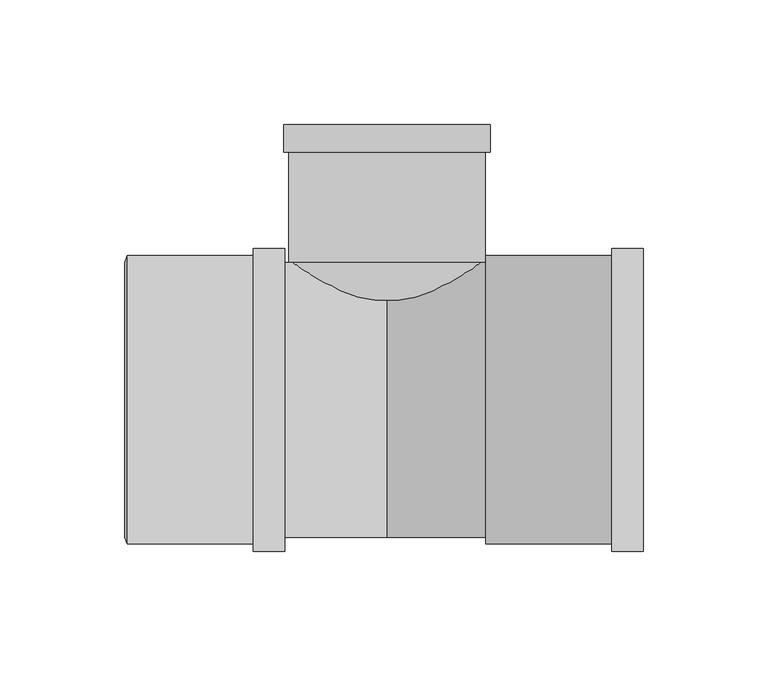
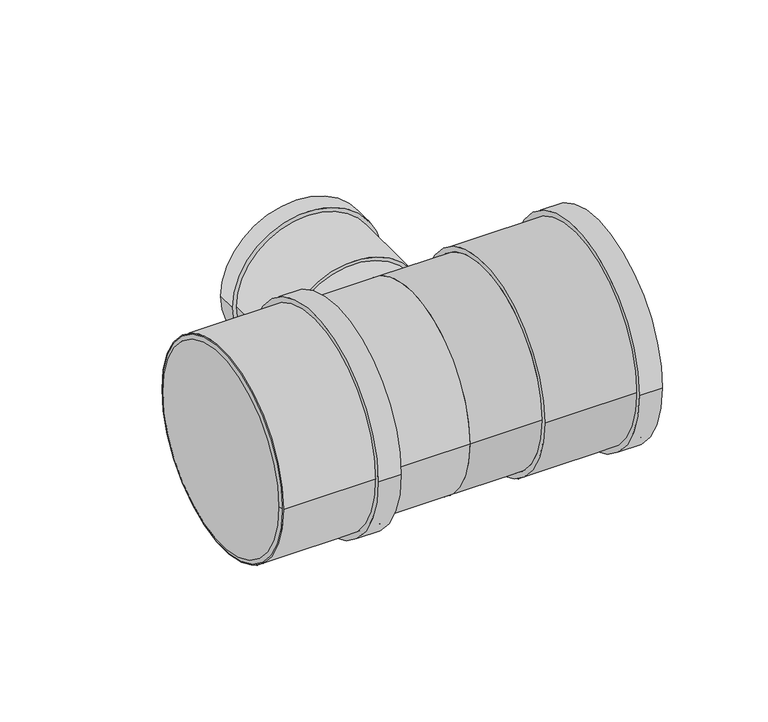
"""IFC4 building model written with IfcOpenShell, lengths in millimetres: pipe fitting geometry, Superdrain HTEA Branch : Superdrain HTEA Branch."""

from ifc_helpers import new_model, si_unit, point, frame, origin, origin_2d, place, context, project, spatial, polyline, circle_curve, trimmed, segment, composite_curve, outline, extrude, source, transform, mapped, element, save
from ifc_brep_helpers import plane_surface, revolved_surface, advanced_brep


def pipe_fitting_ebeeb04b(model_context):
    return source(origin(), model_context, "Body", "SolidModel", [
        extrude(outline(composite_curve([segment(trimmed(circle_curve(origin_2d(), 57.75), [point((57.75, 0.0))], [point((-57.75, 0.0))], False, "CARTESIAN"), True, "CONTINUOUS"), segment(trimmed(circle_curve(origin_2d(), 57.75), [point((-57.75, 0.0))], [point((57.75, 0.0))], False, "CARTESIAN"), True, "CONTINUOUS")], self_intersect=False), holes=[composite_curve([segment(trimmed(circle_curve(origin_2d(), 55.0), [point((55.0, 0.0))], [point((-55.0, 0.0))], True, "CARTESIAN"), True, "CONTINUOUS"), segment(trimmed(circle_curve(origin_2d(), 55.0), [point((-55.0, 0.0))], [point((55.0, 0.0))], True, "CARTESIAN"), True, "CONTINUOUS")], self_intersect=False)]), frame((-103.9, 0.0, 0.0), z_axis=(1.0, 0.0, 0.0), x_axis=(0.0, 1.0, 0.0)), (0.0, 0.0, 1.0), 63.0),
        extrude(outline(composite_curve([segment(trimmed(circle_curve(origin_2d(), 60.6375), [point((60.6375, 0.0))], [point((-60.6375, 0.0))], False, "CARTESIAN"), True, "CONTINUOUS"), segment(trimmed(circle_curve(origin_2d(), 60.6375), [point((-60.6375, 0.0))], [point((60.6375, 0.0))], False, "CARTESIAN"), True, "CONTINUOUS")], self_intersect=False), holes=[composite_curve([segment(trimmed(circle_curve(origin_2d(), 55.0), [point((55.0, 0.0))], [point((-55.0, 0.0))], True, "CARTESIAN"), True, "CONTINUOUS"), segment(trimmed(circle_curve(origin_2d(), 55.0), [point((-55.0, 0.0))], [point((55.0, 0.0))], True, "CARTESIAN"), True, "CONTINUOUS")], self_intersect=False)]), frame((-53.5, 0.0, 0.0), z_axis=(1.0, 0.0, 0.0), x_axis=(0.0, 1.0, 0.0)), (0.0, 0.0, 1.0), 12.6),
        advanced_brep(
        [(-104.9, 55.0, 0.0), (-104.9, -55.0, 0.0), (-103.9, 57.75, 0.0), (-103.9, -57.75, 0.0)],
        [
            (0, 1, circle_curve(frame((-104.9, 0.0, 0.0), z_axis=(-1.0, 0.0, 0.0), x_axis=(0.0, 1.0, 0.0)), 55.0)),
            (1, 0, circle_curve(frame((-104.9, 0.0, 0.0), z_axis=(-1.0, 0.0, 0.0), x_axis=(0.0, -1.0, 0.0)), 55.0)),
            (2, 3, circle_curve(frame((-103.9, 0.0, 0.0), z_axis=(1.0, 0.0, 0.0), x_axis=(0.0, -1.0, 0.0)), 57.75)),
            (3, 2, circle_curve(frame((-103.9, 0.0, 0.0), z_axis=(1.0, 0.0, 0.0), x_axis=(0.0, 1.0, 0.0)), 57.75)),
            (3, 1),
            (0, 2),
        ],
        [
            plane_surface(frame((-104.9, 0.0, 0.0), z_axis=(-1.0, 0.0, 0.0), x_axis=(0.0, 0.0, -1.0))),
            plane_surface(frame((-103.9, 0.0, 0.0), z_axis=(1.0, 0.0, 0.0), x_axis=(0.0, 0.0, -1.0))),
            revolved_surface(polyline([(-104.9, 55.0, 0.0), (-103.9, 57.75, 0.0)]), (-124.9, 0.0, 0.0), (1.0, 0.0, 0.0)),
            revolved_surface(polyline([(-104.9, -55.0, 0.0), (-103.9, -57.75, 0.0)]), (-124.9, 0.0, 0.0), (1.0, 0.0, 0.0)),
        ],
        [
            (0, [[1, 2]]),
            (1, [[3, 4]]),
            (2, [[-4, 5, -1, 6]]),
            (3, [[-3, -6, -2, -5]]),
        ],
    ),
        extrude(outline(composite_curve([segment(trimmed(circle_curve(origin_2d(), 57.75), [point((-57.75, 0.0))], [point((57.75, 0.0))], False, "CARTESIAN"), True, "CONTINUOUS"), segment(trimmed(circle_curve(origin_2d(), 57.75), [point((57.75, 0.0))], [point((-57.75, 0.0))], False, "CARTESIAN"), True, "CONTINUOUS")], self_intersect=False), holes=[composite_curve([segment(trimmed(circle_curve(origin_2d(), 55.0), [point((55.0, 0.0))], [point((-55.0, 0.0))], True, "CARTESIAN"), True, "CONTINUOUS"), segment(trimmed(circle_curve(origin_2d(), 55.0), [point((-55.0, 0.0))], [point((55.0, 0.0))], True, "CARTESIAN"), True, "CONTINUOUS")], self_intersect=False)]), frame((39.6, 0.0, 0.0), z_axis=(1.0, 0.0, 0.0), x_axis=(0.0, 1.0, 0.0)), (0.0, 0.0, 1.0), 63.0),
        extrude(outline(composite_curve([segment(trimmed(circle_curve(origin_2d(), 60.6375), [point((60.6375, 0.0))], [point((-60.6375, 0.0))], False, "CARTESIAN"), True, "CONTINUOUS"), segment(trimmed(circle_curve(origin_2d(), 60.6375), [point((-60.6375, 0.0))], [point((60.6375, 0.0))], False, "CARTESIAN"), True, "CONTINUOUS")], self_intersect=False), holes=[composite_curve([segment(trimmed(circle_curve(origin_2d(), 55.0), [point((55.0, 0.0))], [point((-55.0, 0.0))], True, "CARTESIAN"), True, "CONTINUOUS"), segment(trimmed(circle_curve(origin_2d(), 55.0), [point((-55.0, 0.0))], [point((55.0, 0.0))], True, "CARTESIAN"), True, "CONTINUOUS")], self_intersect=False)]), frame((90.0, 0.0, 0.0), z_axis=(1.0, 0.0, 0.0), x_axis=(0.0, 1.0, 0.0)), (0.0, 0.0, 1.0), 12.6),
        extrude(outline(composite_curve([segment(trimmed(circle_curve(origin_2d(), 37.5), [point((0.0, 37.5))], [point((0.0, -37.5))], False, "CARTESIAN"), True, "CONTINUOUS"), segment(trimmed(circle_curve(origin_2d(), 37.5), [point((0.0, -37.5))], [point((0.0, 37.5))], False, "CARTESIAN"), True, "CONTINUOUS")], self_intersect=False)), frame((0.0, 0.0, 0.0), z_axis=(0.0, 1.0, 0.0), x_axis=(0.0, 0.0, 1.0)), (0.0, 0.0, 1.0), 55.2),
        extrude(outline(composite_curve([segment(trimmed(circle_curve(origin_2d(), 55.0), [point((55.0, 0.0))], [point((-55.0, 0.0))], False, "CARTESIAN"), True, "CONTINUOUS"), segment(trimmed(circle_curve(origin_2d(), 55.0), [point((-55.0, 0.0))], [point((55.0, 0.0))], False, "CARTESIAN"), True, "CONTINUOUS")], self_intersect=False)), frame((-103.9, 0.0, 0.0), z_axis=(1.0, 0.0, 0.0), x_axis=(0.0, 1.0, 0.0)), (0.0, 0.0, 1.0), 103.9),
        extrude(outline(composite_curve([segment(trimmed(circle_curve(origin_2d(), 55.0), [point((-55.0, 0.0))], [point((55.0, 0.0))], False, "CARTESIAN"), True, "CONTINUOUS"), segment(trimmed(circle_curve(origin_2d(), 55.0), [point((55.0, 0.0))], [point((-55.0, 0.0))], False, "CARTESIAN"), True, "CONTINUOUS")], self_intersect=False)), frame((0.0, 0.0, 0.0), z_axis=(1.0, 0.0, 0.0), x_axis=(0.0, 1.0, 0.0)), (0.0, 0.0, 1.0), 39.6),
        extrude(outline(composite_curve([segment(trimmed(circle_curve(origin_2d(), 41.34375), [point((0.0, 41.34375))], [point((0.0, -41.34375))], False, "CARTESIAN"), True, "CONTINUOUS"), segment(trimmed(circle_curve(origin_2d(), 41.34375), [point((0.0, -41.34375))], [point((0.0, 41.34375))], False, "CARTESIAN"), True, "CONTINUOUS")], self_intersect=False), holes=[composite_curve([segment(trimmed(circle_curve(origin_2d(), 37.5), [point((0.0, 37.5))], [point((0.0, -37.5))], True, "CARTESIAN"), True, "CONTINUOUS"), segment(trimmed(circle_curve(origin_2d(), 37.5), [point((0.0, -37.5))], [point((0.0, 37.5))], True, "CARTESIAN"), True, "CONTINUOUS")], self_intersect=False)]), frame((0.0, 99.2, 0.0), z_axis=(0.0, 1.0, 0.0), x_axis=(0.0, 0.0, 1.0)), (0.0, 0.0, 1.0), 11.0),
        extrude(outline(composite_curve([segment(trimmed(circle_curve(origin_2d(), 39.375), [point((0.0, 39.375))], [point((0.0, -39.375))], False, "CARTESIAN"), True, "CONTINUOUS"), segment(trimmed(circle_curve(origin_2d(), 39.375), [point((0.0, -39.375))], [point((0.0, 39.375))], False, "CARTESIAN"), True, "CONTINUOUS")], self_intersect=False), holes=[composite_curve([segment(trimmed(circle_curve(origin_2d(), 37.5), [point((0.0, 37.5))], [point((0.0, -37.5))], True, "CARTESIAN"), True, "CONTINUOUS"), segment(trimmed(circle_curve(origin_2d(), 37.5), [point((0.0, -37.5))], [point((0.0, 37.5))], True, "CARTESIAN"), True, "CONTINUOUS")], self_intersect=False)]), frame((0.0, 55.2, 0.0), z_axis=(0.0, 1.0, 0.0), x_axis=(0.0, 0.0, 1.0)), (0.0, 0.0, 1.0), 55.0),
    ])


if __name__ == "__main__":
    model = new_model("IFC4")
    model_context = context("Model", 3, world=origin())
    ifc_project = project(units=[si_unit("LENGTHUNIT", "METRE", prefix="MILLI")], contexts=[model_context])
    site = spatial("IfcSite", under=ifc_project)
    building = spatial("IfcBuilding", under=site)
    placement = place(None, origin())
    pipe_fitting_shape = pipe_fitting_ebeeb04b(model_context)
    element("IfcPipeFitting", 1, ObjectType="Superdrain HTEA Branch : Superdrain HTEA Branch", at=placement, inside=building, context=model_context, shape_type="MappedRepresentation", body=[
        mapped(pipe_fitting_shape, transform((0.0, 0.0, 0.0), x_axis=(1.0, 0.0, 0.0), y_axis=(0.0, 1.0, 0.0), z_axis=(0.0, 0.0, 1.0))),
    ])
    save(model, "model.ifc")
